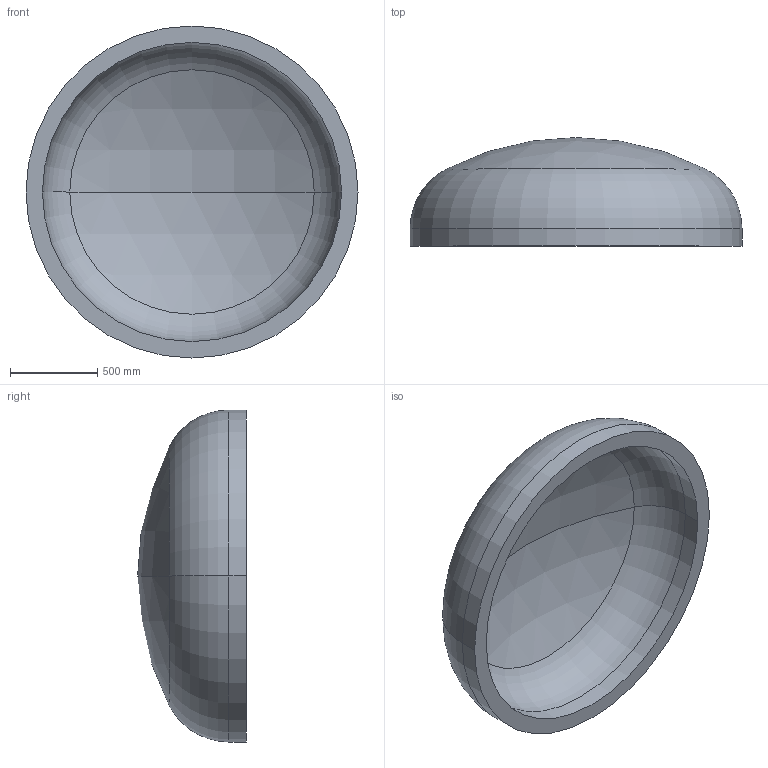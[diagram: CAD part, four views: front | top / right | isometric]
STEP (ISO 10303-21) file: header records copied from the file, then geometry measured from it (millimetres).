
FILE_DESCRIPTION (( 'STEP AP203' ), '1' );
FILE_NAME ('DIN 28013 Korbbogenform_-_Boden DIN 28013 - 1900 x 100 - I - s=94.step', '2016-07-01T13:24:01', ( '' ), ( '' ), 'SwSTEP 2.0', 'SolidWorks 2013', '' );
FILE_SCHEMA (( 'CONFIG_CONTROL_DESIGN' ));
Length unit declared in the file: millimetre
Products named in the file (1): DIN 28013 Korbbogenform_-_Boden DIN 28013 - 1900 x 100 - I - s=94
Bounding box: 1900 x 621.96 x 1900 mm (x, y, z)
Volume: 399078892.5 mm3; surface area: 9042873.4 mm2
Topology: 1 solids, 1 shells, 13 faces, 24 edges, 14 vertices
Faces by surface type: torus 4, cylinder 4, sphere 4, plane 1
Entity records: 407 total; most frequent: DIRECTION 72, CARTESIAN_POINT 52, ORIENTED_EDGE 48, AXIS2_PLACEMENT_3D 34, EDGE_CURVE 24, CIRCLE 20, EDGE_LOOP 14, VERTEX_POINT 14
